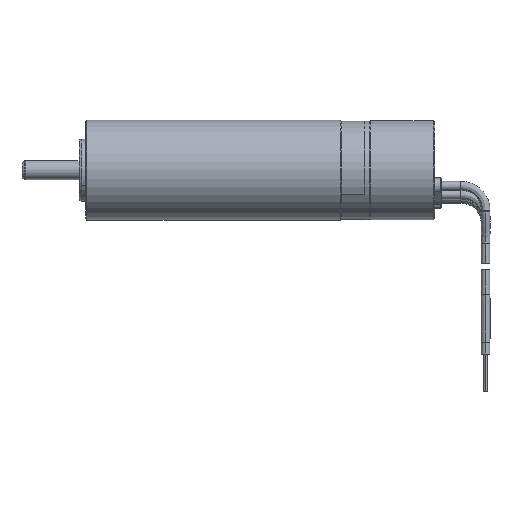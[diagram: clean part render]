
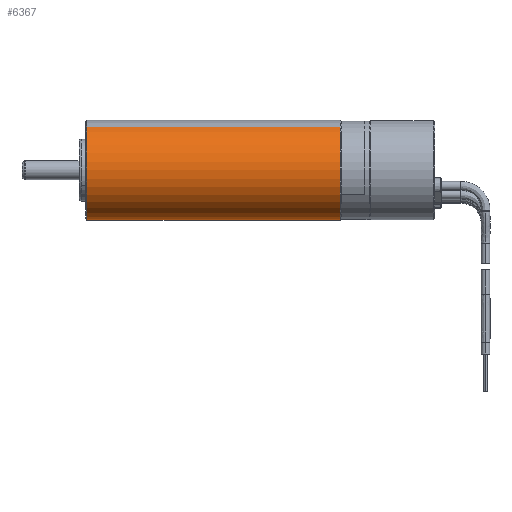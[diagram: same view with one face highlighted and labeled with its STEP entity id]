
A CAD part, top view. The second image highlights one B-rep face of the part: STEP entity #6367.
In plain terms, the highlighted cylindrical face has radius 8 mm (diameter 16 mm), a partial arc.
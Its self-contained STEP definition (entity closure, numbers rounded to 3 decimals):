
#1336=CARTESIAN_POINT('',(0.2,0.,0.));
#1337=DIRECTION('',(1.,0.,0.));
#1338=DIRECTION('',(0.,0.866,0.5));
#1339=AXIS2_PLACEMENT_3D('',#1336,#1337,#1338);
#1344=DIRECTION('',(1.,0.,0.));
#1345=VECTOR('',#1344,40.7);
#1346=CARTESIAN_POINT('',(0.2,6.928,4.));
#1347=LINE('',#1346,#1345);
#1351=CARTESIAN_POINT('',(40.9,0.,0.));
#1352=DIRECTION('',(1.,0.,0.));
#1353=DIRECTION('',(0.,0.866,0.5));
#1354=AXIS2_PLACEMENT_3D('',#1351,#1352,#1353);
#1359=CARTESIAN_POINT('',(40.9,0.,0.));
#1360=DIRECTION('',(1.,0.,0.));
#1361=DIRECTION('',(0.,-0.5,0.866));
#1362=AXIS2_PLACEMENT_3D('',#1359,#1360,#1361);
#1389=DIRECTION('',(1.,0.,0.));
#1390=VECTOR('',#1389,40.7);
#1391=CARTESIAN_POINT('',(0.2,-6.928,
-4.));
#1392=LINE('',#1391,#1390);
#4229=CARTESIAN_POINT('',(40.9,6.928,4.));
#4230=CARTESIAN_POINT('',(40.9,-4.,6.928));
#4231=VERTEX_POINT('',#4229);
#4232=VERTEX_POINT('',#4230);
#4233=CARTESIAN_POINT('',(40.9,-6.928,-4.));
#4234=VERTEX_POINT('',#4233);
#4249=CARTESIAN_POINT('',(0.2,6.928,4.));
#4250=CARTESIAN_POINT('',(0.2,-6.928,-4.));
#4251=VERTEX_POINT('',#4249);
#4252=VERTEX_POINT('',#4250);
#6351=CARTESIAN_POINT('',(-1.,0.,0.));
#6352=DIRECTION('',(1.,0.,0.));
#6353=DIRECTION('',(0.,0.866,0.5));
#6354=AXIS2_PLACEMENT_3D('',#6351,#6352,#6353);
#6355=CYLINDRICAL_SURFACE('',#6354,8.);
#6357=ORIENTED_EDGE('',*,*,#6356,.F.);
#6359=ORIENTED_EDGE('',*,*,#6358,.T.);
#6361=ORIENTED_EDGE('',*,*,#6360,.T.);
#6362=ORIENTED_EDGE('',*,*,#6332,.T.);
#6364=ORIENTED_EDGE('',*,*,#6363,.F.);
#6365=EDGE_LOOP('',(#6357,#6359,#6361,#6362,#6364));
#6366=FACE_OUTER_BOUND('',#6365,.F.);
#6367=ADVANCED_FACE('',(#6366),#6355,.T.);
#1340=CIRCLE('',#1339,8.);
#1355=CIRCLE('',#1354,8.);
#1363=CIRCLE('',#1362,8.);
#6332=EDGE_CURVE('',#4232,#4234,#1363,.T.);
#6356=EDGE_CURVE('',#4251,#4252,#1340,.T.);
#6358=EDGE_CURVE('',#4251,#4231,#1347,.T.);
#6360=EDGE_CURVE('',#4231,#4232,#1355,.T.);
#6363=EDGE_CURVE('',#4252,#4234,#1392,.T.);
